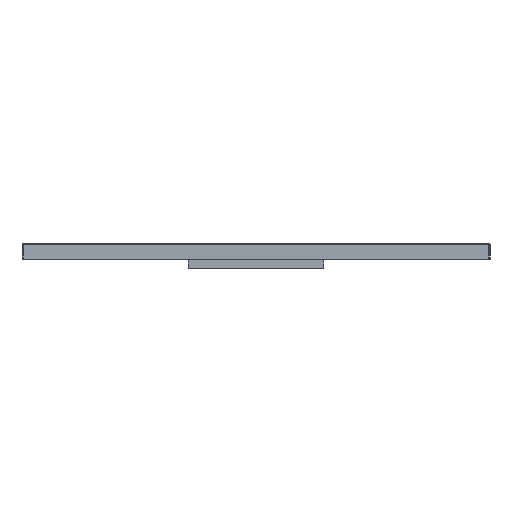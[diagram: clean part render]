
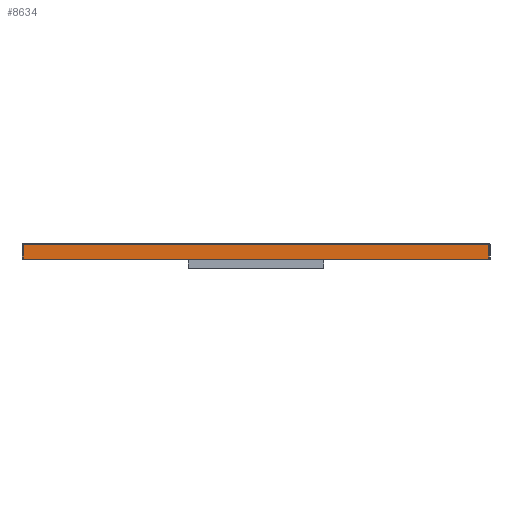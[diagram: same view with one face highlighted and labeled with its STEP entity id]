
A CAD part, left-side view. The second image highlights one B-rep face of the part: STEP entity #8634.
In plain terms, the highlighted planar face has unit normal (-1, 0, 0).
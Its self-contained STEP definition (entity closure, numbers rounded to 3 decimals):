
#441 = CARTESIAN_POINT ( 'NONE',  ( -84.056, 938.93, 0. ) ) ;
#534 = CARTESIAN_POINT ( 'NONE',  ( -84.056, 799.145, -2.078 ) ) ;
#1276 = CARTESIAN_POINT ( 'NONE',  ( -84.056, 46.43, -2.015 ) ) ;
#1315 = FACE_OUTER_BOUND ( 'NONE', #11925, .T. ) ;
#1326 = ORIENTED_EDGE ( 'NONE', *, *, #1543, .F. ) ;
#1340 = CARTESIAN_POINT ( 'NONE',  ( -84.056, 909.382, -2.06 ) ) ;
#1537 = CARTESIAN_POINT ( 'NONE',  ( -84.056, 398.224, -2.072 ) ) ;
#1543 = EDGE_CURVE ( 'NONE', #6108, #9770, #5912, .T. ) ;
#1575 = PLANE ( 'NONE',  #10587 ) ;
#1677 = ORIENTED_EDGE ( 'NONE', *, *, #5124, .F. ) ;
#1799 = ORIENTED_EDGE ( 'NONE', *, *, #2740, .F. ) ;
#2054 = VECTOR ( 'NONE', #2319, 1000. ) ;
#2120 = DIRECTION ( 'NONE',  ( 0., 0., 1. ) ) ;
#2236 = CARTESIAN_POINT ( 'NONE',  ( -84.056, 42.542, -2.008 ) ) ;
#2319 = DIRECTION ( 'NONE',  ( 0., 1., 0. ) ) ;
#2439 = CARTESIAN_POINT ( 'NONE',  ( -84.056, 873.016, -2.089 ) ) ;
#2507 = CARTESIAN_POINT ( 'NONE',  ( -84.056, 54.874, -2.033 ) ) ;
#2740 = EDGE_CURVE ( 'NONE', #7020, #6108, #7947, .T. ) ;
#3262 = CARTESIAN_POINT ( 'NONE',  ( -84.056, 68.541, -2.06 ) ) ;
#3331 = CARTESIAN_POINT ( 'NONE',  ( -84.056, 84.485, -2.083 ) ) ;
#3522 = CARTESIAN_POINT ( 'NONE',  ( -84.056, 102.707, -2.089 ) ) ;
#4166 = CARTESIAN_POINT ( 'NONE',  ( -84.056, 40.93, -30. ) ) ;
#4219 = CARTESIAN_POINT ( 'NONE',  ( -84.056, 761.642, -2.075 ) ) ;
#4353 = CARTESIAN_POINT ( 'NONE',  ( -84.056, 184.704, -2.077 ) ) ;
#4479 = CARTESIAN_POINT ( 'NONE',  ( -84.056, 936.93, -2.005 ) ) ;
#4666 = EDGE_CURVE ( 'NONE', #9770, #9949, #10767, .T. ) ;
#4807 = ORIENTED_EDGE ( 'NONE', *, *, #4666, .F. ) ;
#4836 = CARTESIAN_POINT ( 'NONE',  ( -84.056, 40.93, -2.005 ) ) ;
#5124 = EDGE_CURVE ( 'NONE', #9949, #7020, #6077, .T. ) ;
#5171 = CARTESIAN_POINT ( 'NONE',  ( -84.056, 123.206, -2.085 ) ) ;
#5369 = CARTESIAN_POINT ( 'NONE',  ( -84.056, 935.324, -2.008 ) ) ;
#5742 = VECTOR ( 'NONE', #12555, 1000. ) ;
#5912 = LINE ( 'NONE', #4836, #5742 ) ;
#6077 = LINE ( 'NONE', #8873, #11006 ) ;
#6080 = CARTESIAN_POINT ( 'NONE',  ( -84.056, 40.93, -2.005 ) ) ;
#6108 = VERTEX_POINT ( 'NONE', #6080 ) ;
#6123 = CARTESIAN_POINT ( 'NONE',  ( -84.056, 923.02, -2.032 ) ) ;
#6192 = CARTESIAN_POINT ( 'NONE',  ( -84.056, 558.304, -2.072 ) ) ;
#7020 = VERTEX_POINT ( 'NONE', #10744 ) ;
#7147 = CARTESIAN_POINT ( 'NONE',  ( -84.056, 40.93, -2.005 ) ) ;
#7383 = DIRECTION ( 'NONE',  ( 0., 1., 0. ) ) ;
#7947 = B_SPLINE_CURVE_WITH_KNOTS ( 'NONE', 3,
 ( #4479, #5369, #9060, #6123, #1340, #8103, #2439, #9190, #10011, #534, #4219, #8241, #6192, #1537, #8368, #4353, #12255, #5171, #3522, #3331, #3262, #2507, #1276, #2236, #7147 ),
 .UNSPECIFIED., .F., .F.,
 ( 4, 1, 1, 1, 1, 1, 1, 1, 1, 1, 1, 1, 1, 1, 1, 1, 1, 1, 1, 1, 1, 1, 4 ),
 ( 2., 6.819, 13.638, 27.275, 47.732, 64.778, 85.235, 115.919, 136.376, 167.06, 228.43, 351.168, 562.281, 708.672, 763.337, 790.67, 818.002, 838.502, 852.168, 872.668, 886.334, 893.167, 898. ),
 .UNSPECIFIED. ) ;
#8103 = CARTESIAN_POINT ( 'NONE',  ( -84.056, 892.336, -2.085 ) ) ;
#8241 = CARTESIAN_POINT ( 'NONE',  ( -84.056, 690.045, -2.073 ) ) ;
#8268 = CARTESIAN_POINT ( 'NONE',  ( -84.056, 936.93, -30. ) ) ;
#8368 = CARTESIAN_POINT ( 'NONE',  ( -84.056, 260.834, -2.074 ) ) ;
#8634 = ADVANCED_FACE ( 'NONE', ( #1315 ), #1575, .F. ) ;
#8873 = CARTESIAN_POINT ( 'NONE',  ( -84.056, 936.93, -30. ) ) ;
#9060 = CARTESIAN_POINT ( 'NONE',  ( -84.056, 931.445, -2.015 ) ) ;
#9190 = CARTESIAN_POINT ( 'NONE',  ( -84.056, 850.286, -2.084 ) ) ;
#9770 = VERTEX_POINT ( 'NONE', #10038 ) ;
#9949 = VERTEX_POINT ( 'NONE', #8268 ) ;
#10011 = CARTESIAN_POINT ( 'NONE',  ( -84.056, 826.421, -2.08 ) ) ;
#10038 = CARTESIAN_POINT ( 'NONE',  ( -84.056, 40.93, -30. ) ) ;
#10587 = AXIS2_PLACEMENT_3D ( 'NONE', #441, #11059, #7383 ) ;
#10744 = CARTESIAN_POINT ( 'NONE',  ( -84.056, 936.93, -2.005 ) ) ;
#10767 = LINE ( 'NONE', #4166, #2054 ) ;
#11006 = VECTOR ( 'NONE', #2120, 1000. ) ;
#11059 = DIRECTION ( 'NONE',  ( 1., 0., 0. ) ) ;
#11925 = EDGE_LOOP ( 'NONE', ( #1326, #1799, #1677, #4807 ) ) ;
#12255 = CARTESIAN_POINT ( 'NONE',  ( -84.056, 148.261, -2.081 ) ) ;
#12555 = DIRECTION ( 'NONE',  ( 0., 0., -1. ) ) ;
